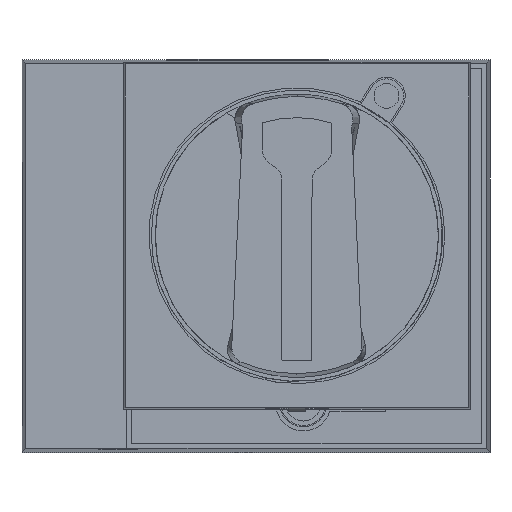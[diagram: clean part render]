
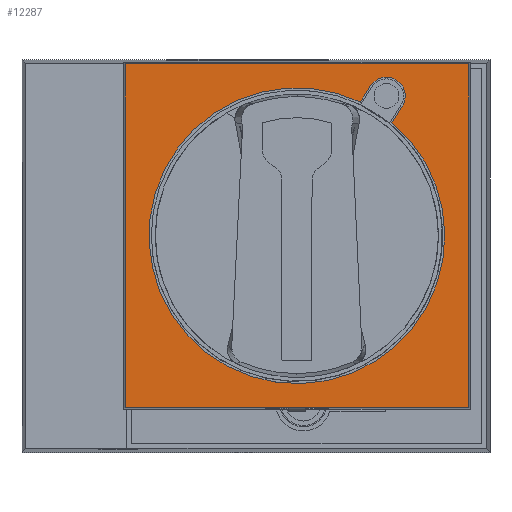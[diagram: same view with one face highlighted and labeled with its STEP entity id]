
A CAD part, top view. The second image highlights one B-rep face of the part: STEP entity #12287.
In plain terms, the highlighted planar face has unit normal (0, 0, 1) as drawn and (0, 1, 0) by its records, which use the part's own axes.
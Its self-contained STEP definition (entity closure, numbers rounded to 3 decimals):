
#10445=DIRECTION('',(-1.,0.,0.));
#10446=VECTOR('',#10445,59.473);
#10447=CARTESIAN_POINT('',(59.736,20.35,59.736));
#10448=LINE('',#10447,#10446);
#10449=DIRECTION('',(0.,0.,1.));
#10450=VECTOR('',#10449,59.473);
#10451=CARTESIAN_POINT('',(0.264,20.35,0.264));
#10452=LINE('',#10451,#10450);
#10453=DIRECTION('',(-1.,0.,0.));
#10454=VECTOR('',#10453,59.473);
#10455=CARTESIAN_POINT('',(59.736,20.35,0.264));
#10456=LINE('',#10455,#10454);
#10457=DIRECTION('',(0.,0.,1.));
#10458=VECTOR('',#10457,59.473);
#10459=CARTESIAN_POINT('',(59.736,20.35,0.264));
#10460=LINE('',#10459,#10458);
#10469=DIRECTION('',(-0.539,0.,0.842));
#10470=VECTOR('',#10469,3.346);
#10471=CARTESIAN_POINT('',(13.567,20.35,49.63));
#10472=LINE('',#10471,#10470);
#10473=DIRECTION('',(0.539,0.,-0.842));
#10474=VECTOR('',#10473,3.346);
#10475=CARTESIAN_POINT('',(17.236,20.35,55.953));
#10476=LINE('',#10475,#10474);
#10539=CARTESIAN_POINT('',(30.,20.35,30.));
#10540=DIRECTION('',(0.,-1.,0.));
#10541=DIRECTION('',(-0.642,0.,0.767));
#10542=AXIS2_PLACEMENT_3D('',#10539,#10540,#10541);
#10557=CARTESIAN_POINT('',(14.5,20.35,54.2));
#10558=DIRECTION('',(0.,-1.,0.));
#10559=DIRECTION('',(0.842,0.,0.539));
#10560=AXIS2_PLACEMENT_3D('',#10557,#10558,#10559);
#11574=CARTESIAN_POINT('',(59.736,20.35,59.736));
#11575=CARTESIAN_POINT('',(0.264,20.35,59.736));
#11576=VERTEX_POINT('',#11574);
#11577=VERTEX_POINT('',#11575);
#11578=CARTESIAN_POINT('',(59.736,20.35,0.264));
#11579=CARTESIAN_POINT('',(0.264,20.35,0.264));
#11580=VERTEX_POINT('',#11578);
#11581=VERTEX_POINT('',#11579);
#11685=CARTESIAN_POINT('',(13.567,20.35,49.63));
#11686=CARTESIAN_POINT('',(11.763,20.35,52.447));
#11687=VERTEX_POINT('',#11685);
#11688=VERTEX_POINT('',#11686);
#11689=CARTESIAN_POINT('',(17.236,20.35,55.953));
#11690=CARTESIAN_POINT('',(19.041,20.35,53.136));
#11691=VERTEX_POINT('',#11689);
#11692=VERTEX_POINT('',#11690);
#12266=CARTESIAN_POINT('',(60.,20.35,0.));
#12267=DIRECTION('',(0.,1.,0.));
#12268=DIRECTION('',(-1.,0.,0.));
#12269=AXIS2_PLACEMENT_3D('',#12266,#12267,#12268);
#12270=PLANE('',#12269);
#12271=ORIENTED_EDGE('',*,*,#12208,.T.);
#12272=ORIENTED_EDGE('',*,*,#12261,.F.);
#12273=ORIENTED_EDGE('',*,*,#12135,.F.);
#12274=ORIENTED_EDGE('',*,*,#12191,.T.);
#12275=EDGE_LOOP('',(#12271,#12272,#12273,#12274));
#12276=FACE_OUTER_BOUND('',#12275,.F.);
#12278=ORIENTED_EDGE('',*,*,#12277,.T.);
#12280=ORIENTED_EDGE('',*,*,#12279,.F.);
#12282=ORIENTED_EDGE('',*,*,#12281,.T.);
#12284=ORIENTED_EDGE('',*,*,#12283,.F.);
#12285=EDGE_LOOP('',(#12278,#12280,#12282,#12284));
#12286=FACE_BOUND('',#12285,.F.);
#12287=ADVANCED_FACE('',(#12276,#12286),#12270,.T.);
#10543=CIRCLE('',#10542,25.6);
#10561=CIRCLE('',#10560,3.25);
#12135=EDGE_CURVE('',#11580,#11581,#10456,.T.);
#12191=EDGE_CURVE('',#11580,#11576,#10460,.T.);
#12208=EDGE_CURVE('',#11576,#11577,#10448,.T.);
#12261=EDGE_CURVE('',#11581,#11577,#10452,.T.);
#12277=EDGE_CURVE('',#11687,#11688,#10472,.T.);
#12279=EDGE_CURVE('',#11691,#11688,#10561,.T.);
#12281=EDGE_CURVE('',#11691,#11692,#10476,.T.);
#12283=EDGE_CURVE('',#11687,#11692,#10543,.T.);
